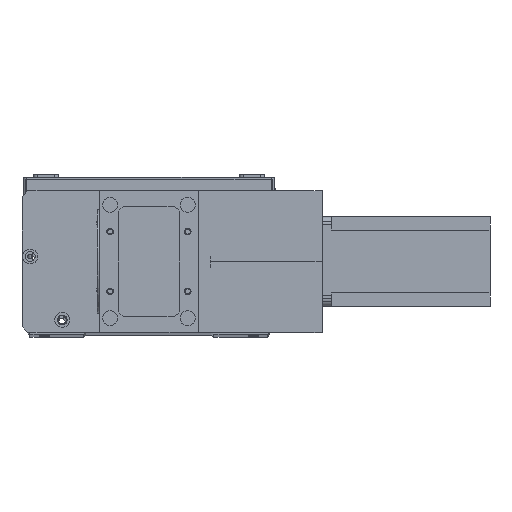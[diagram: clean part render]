
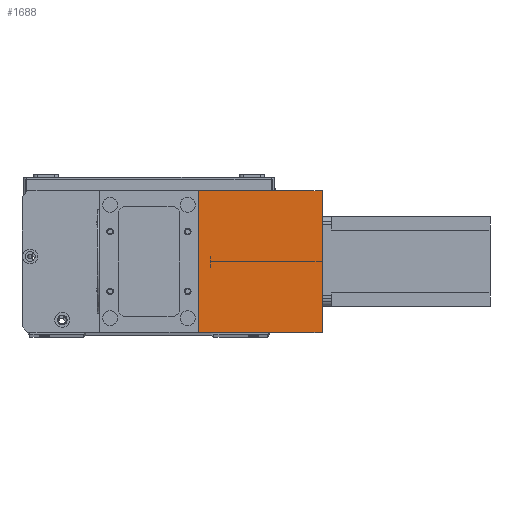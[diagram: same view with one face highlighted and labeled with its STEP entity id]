
A CAD part, top view. The second image highlights one B-rep face of the part: STEP entity #1688.
In plain terms, the highlighted planar face has unit normal (0, 0, 1) as drawn and (1, 0, 0) by its records, which use the part's own axes.
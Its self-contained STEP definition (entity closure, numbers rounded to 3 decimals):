
#93 = DIRECTION ( 'NONE',  ( 0., 0., -1. ) ) ;
#911 = CARTESIAN_POINT ( 'NONE',  ( 82., 0., 0. ) ) ;
#1355 = DIRECTION ( 'NONE',  ( 0., 0., 1. ) ) ;
#1380 = DIRECTION ( 'NONE',  ( -1., 0., 0. ) ) ;
#1382 = CARTESIAN_POINT ( 'NONE',  ( 82., 0., 83. ) ) ;
#1571 = PLANE ( 'NONE',  #22240 ) ;
#1688 = ADVANCED_FACE ( 'NONE', ( #21949 ), #1571, .F. ) ;
#3243 = VECTOR ( 'NONE', #16499, 1000. ) ;
#4187 = VERTEX_POINT ( 'NONE', #911 ) ;
#4682 = LINE ( 'NONE', #25267, #3243 ) ;
#6242 = VERTEX_POINT ( 'NONE', #14530 ) ;
#7206 = VECTOR ( 'NONE', #93, 1000. ) ;
#7919 = LINE ( 'NONE', #18006, #7206 ) ;
#8540 = EDGE_LOOP ( 'NONE', ( #18500, #16273, #23778, #24479 ) ) ;
#10067 = VERTEX_POINT ( 'NONE', #24344 ) ;
#14530 = CARTESIAN_POINT ( 'NONE',  ( 82., 95., 0. ) ) ;
#15644 = DIRECTION ( 'NONE',  ( 0., 1., 0. ) ) ;
#15711 = DIRECTION ( 'NONE',  ( 0., 1., 0. ) ) ;
#15827 = LINE ( 'NONE', #26639, #21024 ) ;
#16273 = ORIENTED_EDGE ( 'NONE', *, *, #24338, .F. ) ;
#16499 = DIRECTION ( 'NONE',  ( 0., 0., -1. ) ) ;
#18006 = CARTESIAN_POINT ( 'NONE',  ( 82., 0., 83. ) ) ;
#18500 = ORIENTED_EDGE ( 'NONE', *, *, #24039, .T. ) ;
#21024 = VECTOR ( 'NONE', #15711, 1000. ) ;
#21949 = FACE_OUTER_BOUND ( 'NONE', #8540, .T. ) ;
#22240 = AXIS2_PLACEMENT_3D ( 'NONE', #1382, #1380, #1355 ) ;
#23416 = EDGE_CURVE ( 'NONE', #23736, #4187, #7919, .T. ) ;
#23469 = CARTESIAN_POINT ( 'NONE',  ( 82., 0., 83. ) ) ;
#23736 = VERTEX_POINT ( 'NONE', #23469 ) ;
#23778 = ORIENTED_EDGE ( 'NONE', *, *, #24762, .F. ) ;
#24039 = EDGE_CURVE ( 'NONE', #4187, #6242, #27823, .T. ) ;
#24338 = EDGE_CURVE ( 'NONE', #10067, #6242, #4682, .T. ) ;
#24344 = CARTESIAN_POINT ( 'NONE',  ( 82., 95., 83. ) ) ;
#24407 = CARTESIAN_POINT ( 'NONE',  ( 82., 0., 0. ) ) ;
#24479 = ORIENTED_EDGE ( 'NONE', *, *, #23416, .T. ) ;
#24762 = EDGE_CURVE ( 'NONE', #23736, #10067, #15827, .T. ) ;
#25267 = CARTESIAN_POINT ( 'NONE',  ( 82., 95., 83. ) ) ;
#26639 = CARTESIAN_POINT ( 'NONE',  ( 82., 0., 83. ) ) ;
#27167 = VECTOR ( 'NONE', #15644, 1000. ) ;
#27823 = LINE ( 'NONE', #24407, #27167 ) ;
